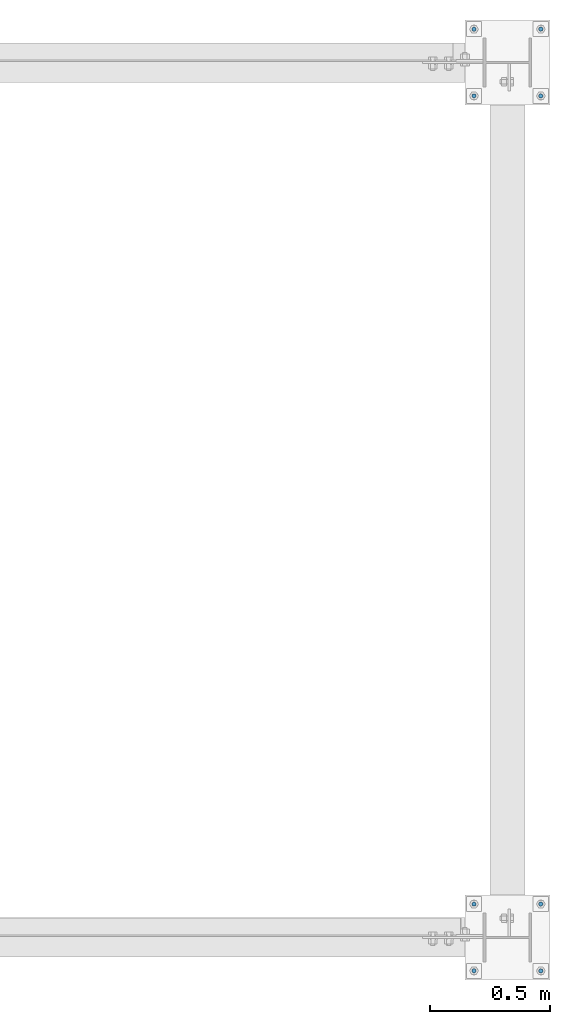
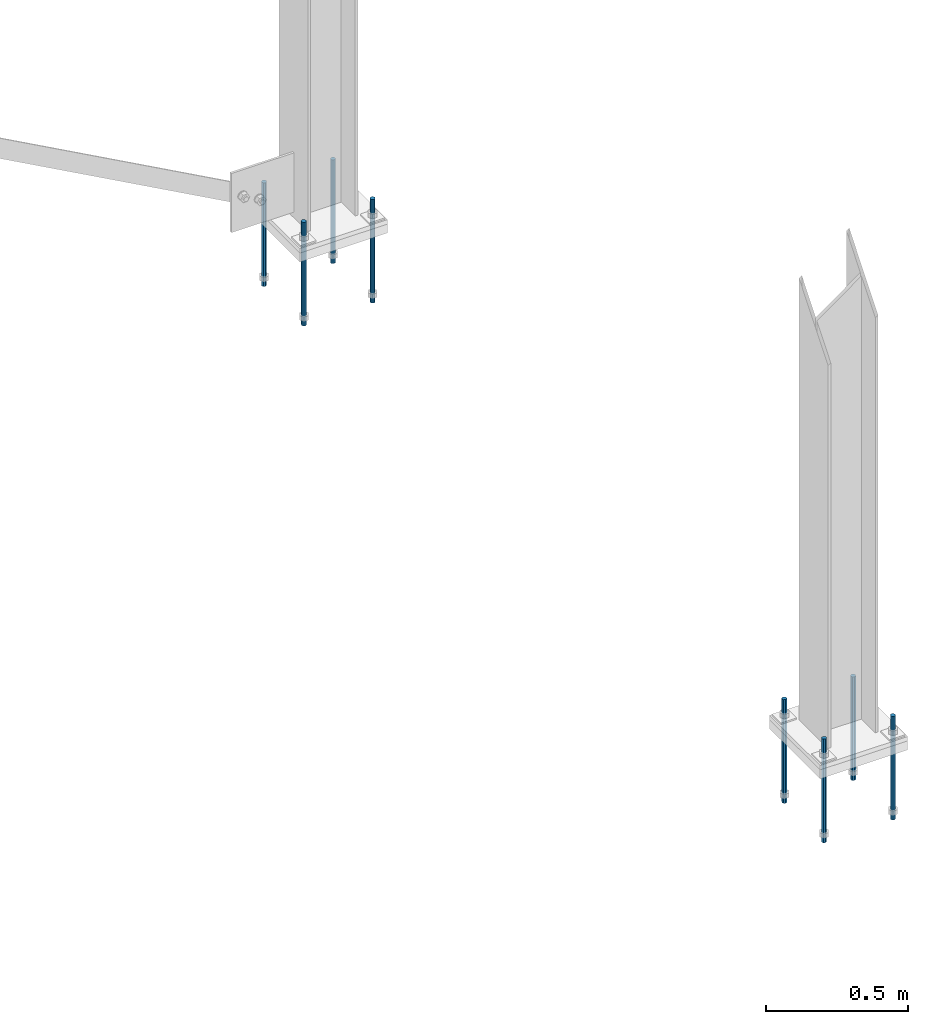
# One storey, part 3 of 5: 8 columns.
"""IFC4 building model written with IfcOpenShell, lengths in millimetres."""

from ifc_helpers import new_model, si_unit, direction, frame, origin_with_axes, place, context, subcontext, project, spatial, line, indexed_curve, outline, extrude, material, element, save


model = new_model("IFC4")

# Units and contexts
model_context = context("Model", 3, precision=0.2, world=origin_with_axes(), true_north=direction((0.0, 1.0)))
body_context = subcontext(model_context, "Body", "Model", "MODEL_VIEW")
ifc_project = project(units=[si_unit("LENGTHUNIT", "METRE", prefix="MILLI"), si_unit("AREAUNIT", "SQUARE_METRE"), si_unit("VOLUMEUNIT", "CUBIC_METRE"), si_unit("MASSUNIT", "GRAM", prefix="KILO"), si_unit("TIMEUNIT", "SECOND"), si_unit("PLANEANGLEUNIT", "RADIAN"), si_unit("SOLIDANGLEUNIT", "STERADIAN"), si_unit("THERMODYNAMICTEMPERATUREUNIT", "DEGREE_CELSIUS"), si_unit("LUMINOUSINTENSITYUNIT", "LUMEN")], contexts=[model_context])

# Site, building, storey
site_placement = place(None, origin_with_axes())
site = spatial("IfcSite", under=ifc_project, at=site_placement, Name="Unknown", CompositionType="ELEMENT")
building_placement = place(site_placement, origin_with_axes())
building = spatial("IfcBuilding", under=site, at=building_placement, Name="Unknown", CompositionType="ELEMENT")
storey_placement = place(building_placement, origin_with_axes())
storey = spatial("IfcBuildingStorey", under=building, at=storey_placement, Name="Unknown", CompositionType="ELEMENT", Elevation=0.0)

# Columns
ifc_material = material(Name="F1554-36", Category="STEEL")
for number, where, z_axis, x_axis, name in (
    (1, (4737.1, -139.7, -304.8), (-1.0, 0.0, 0.0), (0.0, 0.0, 1.0), "ANCHOR ROD"),
    (2, (4737.1, 139.7, -304.8), (-1.0, 0.0, 0.0), (0.0, 0.0, 1.0), "ANCHOR ROD"),
    (3, (5016.5, -139.7, -304.8), (-1.0, 0.0, 0.0), (0.0, 0.0, 1.0), "ANCHOR ROD"),
    (4, (5016.5, 139.7, -304.8), (-1.0, 0.0, 0.0), (0.0, 0.0, 1.0), "ANCHOR ROD"),
    (5, (4737.1, 3517.9, -304.8), (-1.0, 0.0, 0.0), (0.0, 0.0, 1.0), "ANCHOR ROD"),
    (6, (4737.1, 3797.3, -304.8), (-1.0, 0.0, 0.0), (0.0, 0.0, 1.0), "ANCHOR ROD"),
    (7, (5016.5, 3517.9, -304.8), (-1.0, 0.0, 0.0), (0.0, 0.0, 1.0), "ANCHOR ROD"),
    (8, (5016.5, 3797.3, -304.8), (-1.0, 0.0, 0.0), (0.0, 0.0, 1.0), "ANCHOR ROD"),
):
    element("IfcColumn", number, at=place(storey_placement, frame(where, z_axis=z_axis, x_axis=x_axis)), inside=storey, material=ifc_material, Name=name, PredefinedType="NOTDEFINED", context=body_context, shape_type="SolidModel", body=[
        extrude(outline(indexed_curve([(9.525, 0.0), (6.73519, 6.73519), (0.0, 9.525), (-6.73519, 6.73519), (-9.525, 0.0), (-6.73519, -6.73519), (0.0, -9.525), (6.73519, -6.73519)], segments=[line(1, 2, 3, 4, 5, 6, 7, 8, 1)])), frame((0.0, 0.0, 0.0), z_axis=(-1.0, 0.0, 0.0), x_axis=(0.0, 0.0, 1.0)), (0.0, 0.0, -1.0), 444.5),
    ])

save(model, "model.ifc")
